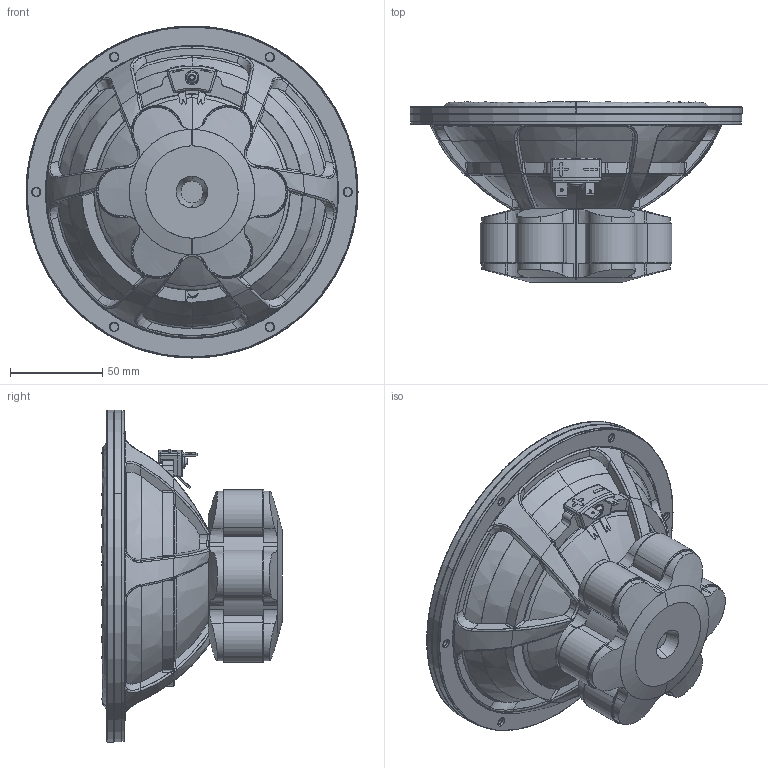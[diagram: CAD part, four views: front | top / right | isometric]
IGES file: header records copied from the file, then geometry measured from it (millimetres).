
Start section: SolidWorks IGES file using analytic representation for surfaces
Global section: file name: W:\TT\18WE\WEB 18WE_8542T00\18WE-8542T00.IGS; native system: SolidWorks 2019; preprocessor: SolidWorks 2019; author: mhn; date: 201215.104333; units: millimetre
Bounding box: 180 x 97.71 x 180 mm (x, y, z)
Surface area: 114178.5 mm2 (no closed solid volume)
Topology: 0 solids, 0 shells, 1041 faces, 15443 edges, 15403 vertices
Faces by surface type: bspline 638, revolution 403
